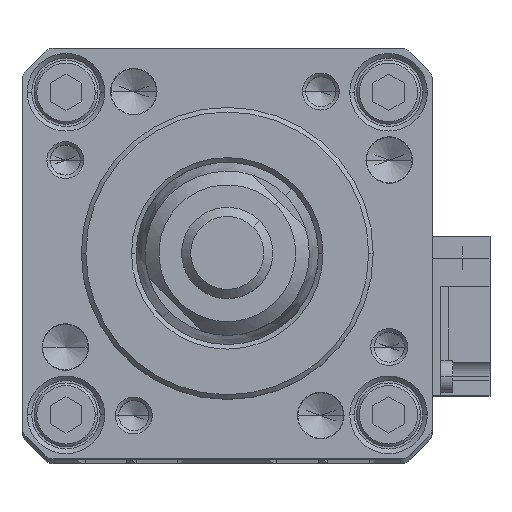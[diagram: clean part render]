
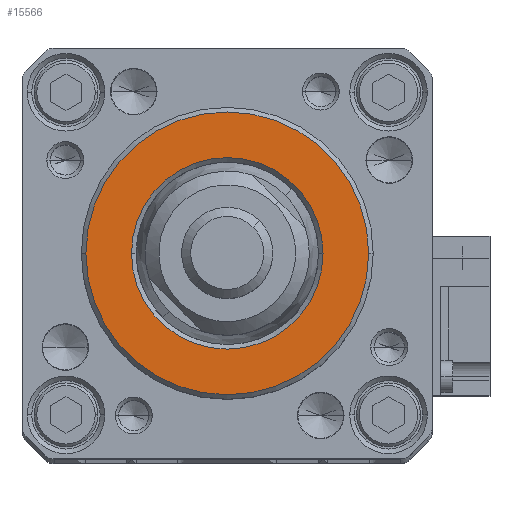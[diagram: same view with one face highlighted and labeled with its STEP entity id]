
A CAD part, top view. The second image highlights one B-rep face of the part: STEP entity #15566.
In plain terms, the highlighted planar face has unit normal (0, 0, 1).
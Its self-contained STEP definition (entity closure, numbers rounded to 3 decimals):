
#487 = CARTESIAN_POINT ( 'NONE',  ( 15.5, 0., 307. ) ) ;
#1136 = DIRECTION ( 'NONE',  ( 0., 0., -1. ) ) ;
#1489 = VERTEX_POINT ( 'NONE', #487 ) ;
#1674 = ORIENTED_EDGE ( 'NONE', *, *, #14566, .T. ) ;
#2348 = CIRCLE ( 'NONE', #8528, 15.5 ) ;
#2504 = DIRECTION ( 'NONE',  ( 0., 0., -1. ) ) ;
#3028 = VERTEX_POINT ( 'NONE', #25114 ) ;
#3424 = FACE_BOUND ( 'NONE', #16600, .T. ) ;
#4482 = EDGE_CURVE ( 'NONE', #3028, #8944, #24079, .T. ) ;
#4897 = ORIENTED_EDGE ( 'NONE', *, *, #4482, .T. ) ;
#5099 = ORIENTED_EDGE ( 'NONE', *, *, #21358, .T. ) ;
#5123 = AXIS2_PLACEMENT_3D ( 'NONE', #17048, #8829, #23310 ) ;
#5819 = CIRCLE ( 'NONE', #15976, 15.5 ) ;
#7407 = DIRECTION ( 'NONE',  ( 0., 0., 1. ) ) ;
#8528 = AXIS2_PLACEMENT_3D ( 'NONE', #23973, #11572, #26063 ) ;
#8829 = DIRECTION ( 'NONE',  ( 0., 0., 1. ) ) ;
#8944 = VERTEX_POINT ( 'NONE', #18519 ) ;
#9623 = CIRCLE ( 'NONE', #25517, 10.5 ) ;
#11572 = DIRECTION ( 'NONE',  ( 0., 0., 1. ) ) ;
#13461 = CARTESIAN_POINT ( 'NONE',  ( 0., 0., 307. ) ) ;
#14566 = EDGE_CURVE ( 'NONE', #1489, #18387, #2348, .T. ) ;
#14806 = CARTESIAN_POINT ( 'NONE',  ( 0., 0., 307. ) ) ;
#15529 = DIRECTION ( 'NONE',  ( 1., 0., 0. ) ) ;
#15566 = ADVANCED_FACE ( 'NONE', ( #3424, #24745 ), #25310, .T. ) ;
#15976 = AXIS2_PLACEMENT_3D ( 'NONE', #19718, #7407, #21830 ) ;
#16139 = CARTESIAN_POINT ( 'NONE',  ( -15.5, 0., 307. ) ) ;
#16600 = EDGE_LOOP ( 'NONE', ( #5099, #4897 ) ) ;
#16888 = DIRECTION ( 'NONE',  ( 1., 0., 0. ) ) ;
#17048 = CARTESIAN_POINT ( 'NONE',  ( 0., 0., 307. ) ) ;
#18387 = VERTEX_POINT ( 'NONE', #16139 ) ;
#18519 = CARTESIAN_POINT ( 'NONE',  ( 10.5, 0., 307. ) ) ;
#19718 = CARTESIAN_POINT ( 'NONE',  ( 0., 0., 307. ) ) ;
#20862 = AXIS2_PLACEMENT_3D ( 'NONE', #13461, #1136, #15529 ) ;
#21358 = EDGE_CURVE ( 'NONE', #8944, #3028, #9623, .T. ) ;
#21830 = DIRECTION ( 'NONE',  ( 1., 0., 0. ) ) ;
#23310 = DIRECTION ( 'NONE',  ( 1., 0., 0. ) ) ;
#23797 = ORIENTED_EDGE ( 'NONE', *, *, #26847, .T. ) ;
#23973 = CARTESIAN_POINT ( 'NONE',  ( 0., 0., 307. ) ) ;
#24079 = CIRCLE ( 'NONE', #20862, 10.5 ) ;
#24745 = FACE_OUTER_BOUND ( 'NONE', #25032, .T. ) ;
#25032 = EDGE_LOOP ( 'NONE', ( #23797, #1674 ) ) ;
#25114 = CARTESIAN_POINT ( 'NONE',  ( -10.5, 0., 307. ) ) ;
#25310 = PLANE ( 'NONE',  #5123 ) ;
#25517 = AXIS2_PLACEMENT_3D ( 'NONE', #14806, #2504, #16888 ) ;
#26063 = DIRECTION ( 'NONE',  ( 1., 0., 0. ) ) ;
#26847 = EDGE_CURVE ( 'NONE', #18387, #1489, #5819, .T. ) ;
